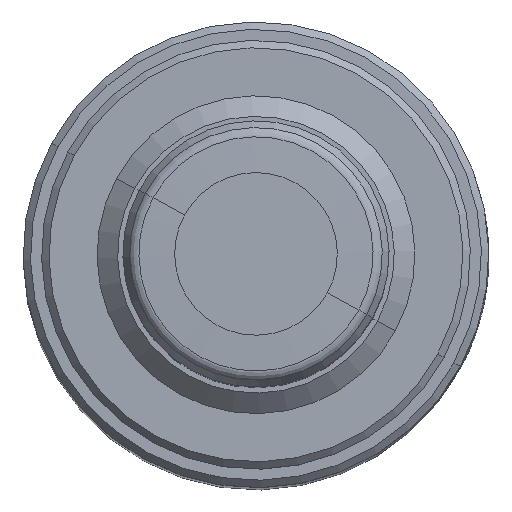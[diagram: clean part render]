
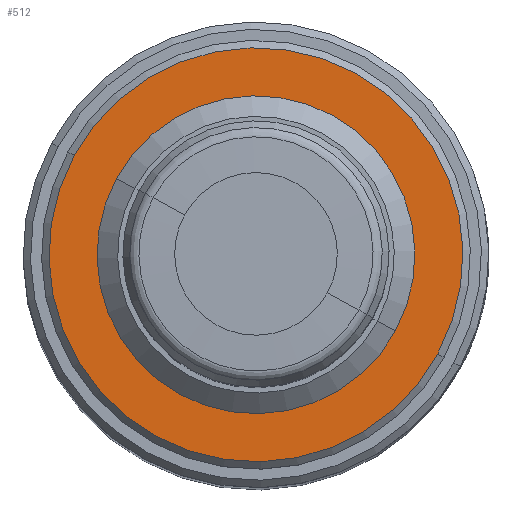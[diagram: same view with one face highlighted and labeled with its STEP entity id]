
A CAD part, top view. The second image highlights one B-rep face of the part: STEP entity #512.
In plain terms, the highlighted planar face has unit normal (0, 0, 1).
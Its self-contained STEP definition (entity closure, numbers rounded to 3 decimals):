
#339=CARTESIAN_POINT('Vertex',(-18.868,10.308,114.95)) ;
#342=CARTESIAN_POINT('Axis2P3D Location',(0.,0.,114.95)) ;
#346=CARTESIAN_POINT('Vertex',(18.868,-10.308,114.95)) ;
#368=CARTESIAN_POINT('Axis2P3D Location',(0.,0.,114.95)) ;
#394=CARTESIAN_POINT('Vertex',(-24.572,13.424,114.95)) ;
#410=CARTESIAN_POINT('Vertex',(24.572,-13.424,114.95)) ;
#413=CARTESIAN_POINT('Axis2P3D Location',(0.,0.,114.95)) ;
#430=CARTESIAN_POINT('Axis2P3D Location',(0.,0.,114.95)) ;
#499=CARTESIAN_POINT('Axis2P3D Location',(28.,0.,114.95)) ;
#343=DIRECTION('Axis2P3D Direction',(0.,0.,-1.)) ;
#369=DIRECTION('Axis2P3D Direction',(0.,0.,-1.)) ;
#414=DIRECTION('Axis2P3D Direction',(0.,0.,-1.)) ;
#431=DIRECTION('Axis2P3D Direction',(0.,0.,-1.)) ;
#500=DIRECTION('Axis2P3D Direction',(0.,0.,-1.)) ;
#501=DIRECTION('Axis2P3D XDirection',(1.,0.,0.)) ;
#344=AXIS2_PLACEMENT_3D('Circle Axis2P3D',#342,#343,$) ;
#370=AXIS2_PLACEMENT_3D('Circle Axis2P3D',#368,#369,$) ;
#415=AXIS2_PLACEMENT_3D('Circle Axis2P3D',#413,#414,$) ;
#432=AXIS2_PLACEMENT_3D('Circle Axis2P3D',#430,#431,$) ;
#502=AXIS2_PLACEMENT_3D('Plane Axis2P3D',#499,#500,#501) ;
#505=ORIENTED_EDGE('',*,*,#417,.F.) ;
#506=ORIENTED_EDGE('',*,*,#434,.F.) ;
#509=ORIENTED_EDGE('',*,*,#372,.T.) ;
#510=ORIENTED_EDGE('',*,*,#348,.T.) ;
#511=FACE_BOUND('',#508,.T.) ;
#512=ADVANCED_FACE('',(#507,#511),#503,.F.) ;
#345=CIRCLE('generated circle',#344,21.5) ;
#371=CIRCLE('generated circle',#370,21.5) ;
#416=CIRCLE('generated circle',#415,28.) ;
#433=CIRCLE('generated circle',#432,28.) ;
#348=EDGE_CURVE('',#347,#340,#345,.T.) ;
#372=EDGE_CURVE('',#340,#347,#371,.T.) ;
#417=EDGE_CURVE('',#411,#395,#416,.T.) ;
#434=EDGE_CURVE('',#395,#411,#433,.T.) ;
#504=EDGE_LOOP('',(#505,#506)) ;
#508=EDGE_LOOP('',(#509,#510)) ;
#507=FACE_OUTER_BOUND('',#504,.T.) ;
#503=PLANE('Plane',#502) ;
#340=VERTEX_POINT('',#339) ;
#347=VERTEX_POINT('',#346) ;
#395=VERTEX_POINT('',#394) ;
#411=VERTEX_POINT('',#410) ;
